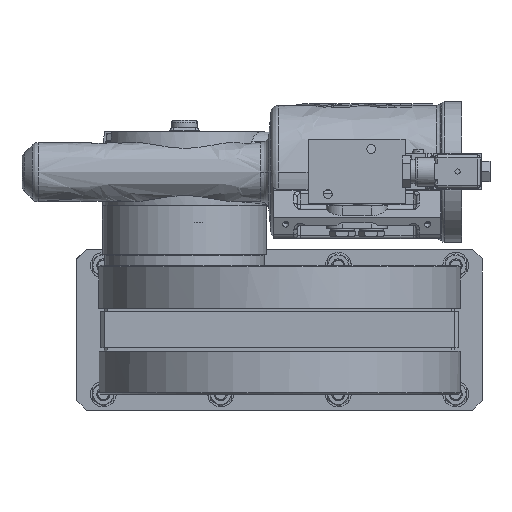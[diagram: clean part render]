
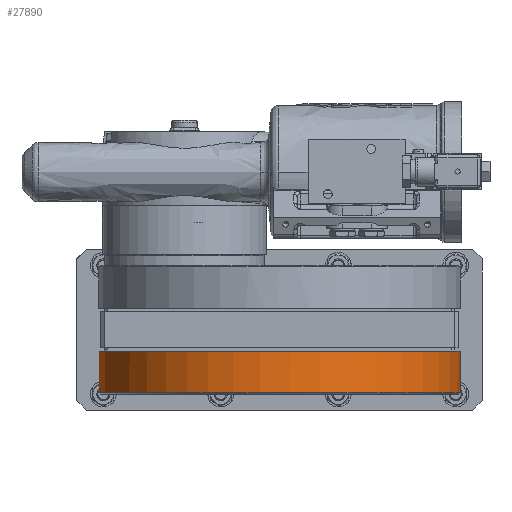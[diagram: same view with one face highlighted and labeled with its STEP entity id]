
A CAD part, front view. The second image highlights one B-rep face of the part: STEP entity #27890.
In plain terms, the highlighted free-form (B-spline) face has degree [2, 1] with [7, 2] control points.
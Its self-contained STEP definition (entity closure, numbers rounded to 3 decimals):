
#27815=CARTESIAN_POINT('V8',(112.4,0.,0.0)
   );
#27816=VERTEX_POINT('V8',#27815);
#27817=CARTESIAN_POINT('E12',(112.4,0.,0.0)
   );
#27818=CARTESIAN_POINT('E12',(112.4,0.,
   -194.683));
#27819=CARTESIAN_POINT('E12',(-56.2,0.,
   -97.341));
#27820=CARTESIAN_POINT('E12',(-224.8,0.,
   0.));
#27821=CARTESIAN_POINT('E12',(-56.2,0.,
   97.341));
#27822=CARTESIAN_POINT('E12',(112.4,0.,
   194.683));
#27823=CARTESIAN_POINT('E12',(112.4,0.,0.0)
   );
#27831=(BOUNDED_CURVE()B_SPLINE_CURVE(2,(#27817,#27818,#27819,
   #27820,#27821,#27822,#27823),.CIRCULAR_ARC.,.T.,.U.)
   B_SPLINE_CURVE_WITH_KNOTS((3,2,2,3),(0.0,15.033,
   30.067,45.1),.UNSPECIFIED.)CURVE()
   GEOMETRIC_REPRESENTATION_ITEM()RATIONAL_B_SPLINE_CURVE((1.0,
   0.5,1.0,0.5,1.0,0.5,1.0)
   )REPRESENTATION_ITEM('E12'));
#27832=EDGE_CURVE('E12',#27816,#27816,#27831,.T.);
#27840=CARTESIAN_POINT('F7',(112.4,0.,0.0)
   );
#27841=CARTESIAN_POINT('F7',(112.4,0.,
   -194.683));
#27842=CARTESIAN_POINT('F7',(-56.2,0.,
   -97.341));
#27843=CARTESIAN_POINT('F7',(-224.8,0.,
   0.));
#27844=CARTESIAN_POINT('F7',(-56.2,0.,
   97.341));
#27845=CARTESIAN_POINT('F7',(112.4,0.,
   194.683));
#27846=CARTESIAN_POINT('F7',(112.4,0.,0.0)
   );
#27847=CARTESIAN_POINT('F7',(112.4,25.9,
   0.0));
#27848=CARTESIAN_POINT('F7',(112.4,25.9,
   -194.683));
#27849=CARTESIAN_POINT('F7',(-56.2,25.9,
   -97.341));
#27850=CARTESIAN_POINT('F7',(-224.8,25.9,
   0.));
#27851=CARTESIAN_POINT('F7',(-56.2,25.9,
   97.341));
#27852=CARTESIAN_POINT('F7',(112.4,25.9,
   194.683));
#27853=CARTESIAN_POINT('F7',(112.4,25.9,
   0.0));
#27861=(BOUNDED_SURFACE()B_SPLINE_SURFACE(2,1,((#27840,#27847),(
   #27841,#27848),(#27842,#27849),(#27843,#27850),(#27844,
   #27851),(#27845,#27852),(#27846,#27853)),.CYLINDRICAL_SURF.,
   .T.,.F.,.U.)B_SPLINE_SURFACE_WITH_KNOTS((3,2,2,3),(2,2),(0.0,
   15.033,30.067,45.1),(0.0,
   1.0),.UNSPECIFIED.)GEOMETRIC_REPRESENTATION_ITEM()
   RATIONAL_B_SPLINE_SURFACE(((1.0,1.0),(0.5,
   0.5),(1.0,1.0),(0.5,
   0.5),(1.0,1.0),(0.5,
   0.5),(1.0,1.0)))REPRESENTATION_ITEM('F7')SURFACE()
   );
#27862=CARTESIAN_POINT('V2',(112.4,25.9,
   0.0));
#27863=VERTEX_POINT('V2',#27862);
#27864=CARTESIAN_POINT('E13',(112.4,25.9,
   0.0));
#27865=CARTESIAN_POINT('E13',(112.4,0.,0.0)
   );
#27866=QUASI_UNIFORM_CURVE('E13',1,(#27864,#27865),.POLYLINE_FORM.,
   .F.,.U.);
#27867=EDGE_CURVE('E13',#27863,#27816,#27866,.T.);
#27868=ORIENTED_EDGE('E13',*,*,#27867,.F.);
#27869=CARTESIAN_POINT('E2',(112.4,25.9,
   0.0));
#27870=CARTESIAN_POINT('E2',(112.4,25.9,
   194.683));
#27871=CARTESIAN_POINT('E2',(-56.2,25.9,
   97.341));
#27872=CARTESIAN_POINT('E2',(-224.8,25.9,
   0.));
#27873=CARTESIAN_POINT('E2',(-56.2,25.9,
   -97.341));
#27874=CARTESIAN_POINT('E2',(112.4,25.9,
   -194.683));
#27875=CARTESIAN_POINT('E2',(112.4,25.9,
   0.0));
#27883=(BOUNDED_CURVE()B_SPLINE_CURVE(2,(#27869,#27870,#27871,
   #27872,#27873,#27874,#27875),.CIRCULAR_ARC.,.T.,.U.)
   B_SPLINE_CURVE_WITH_KNOTS((3,2,2,3),(0.0,15.033,
   30.067,45.1),.UNSPECIFIED.)CURVE()
   GEOMETRIC_REPRESENTATION_ITEM()RATIONAL_B_SPLINE_CURVE((1.0,
   0.5,1.0,0.5,1.0,0.5,1.0)
   )REPRESENTATION_ITEM('E2'));
#27884=EDGE_CURVE('E2',#27863,#27863,#27883,.T.);
#27885=ORIENTED_EDGE('E2',*,*,#27884,.F.);
#27886=ORIENTED_EDGE('E13',*,*,#27867,.T.);
#27887=ORIENTED_EDGE('F6',*,*,#27832,.F.);
#27888=EDGE_LOOP('F7',(#27868,#27885,#27886,#27887));
#27889=FACE_OUTER_BOUND('F7',#27888,.F.);
#27890=ADVANCED_FACE('F7',(#27889),#27861,.T.);
